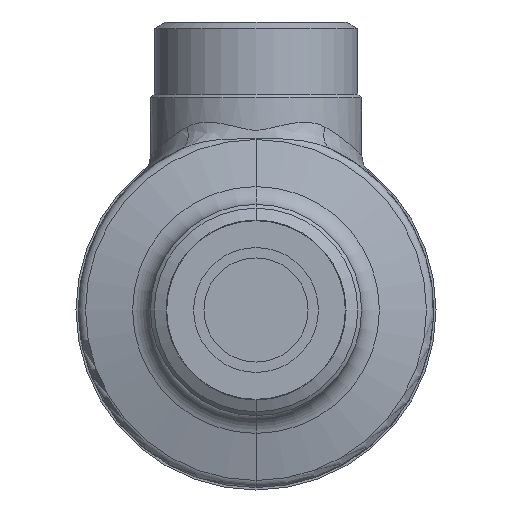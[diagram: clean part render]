
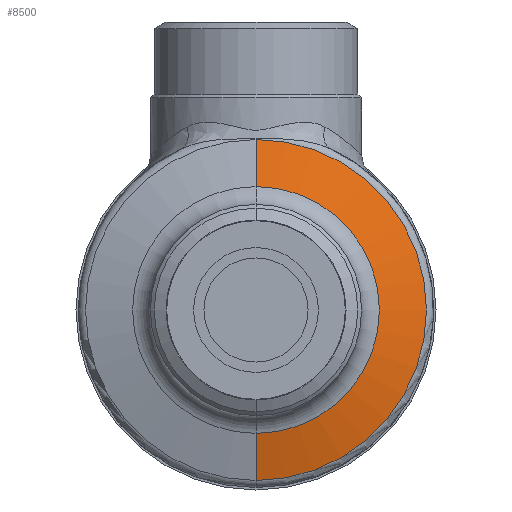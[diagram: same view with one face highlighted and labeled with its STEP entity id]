
A CAD part, front view. The second image highlights one B-rep face of the part: STEP entity #8500.
In plain terms, the highlighted conical face has half-angle 75 degrees and reference radius 37 mm.
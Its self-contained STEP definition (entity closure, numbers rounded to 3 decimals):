
#2679 = EDGE_CURVE ( 'NONE', #6028, #3481, #6401, .T. ) ;
#2841 = ORIENTED_EDGE ( 'NONE', *, *, #2679, .F. ) ;
#3481 = VERTEX_POINT ( 'NONE', #9791 ) ;
#3701 = EDGE_CURVE ( 'NONE', #13688, #3481, #9969, .T. ) ;
#6028 = VERTEX_POINT ( 'NONE', #12836 ) ;
#6401 = LINE ( 'NONE', #6404, #6405 ) ;
#6404 = CARTESIAN_POINT ( 'NONE',  ( 0., -63.981, 37. ) ) ;
#6405 = VECTOR ( 'NONE', #6406, 1000. ) ;
#6406 = DIRECTION ( 'NONE',  ( 0., 0.259, 0.966 ) ) ;
#6672 = CIRCLE ( 'NONE', #6673, 25.706 ) ;
#6673 = AXIS2_PLACEMENT_3D ( 'NONE', #6674, #6675, #6676 ) ;
#6674 = CARTESIAN_POINT ( 'NONE',  ( 0., -67.007, 0. ) ) ;
#6675 = DIRECTION ( 'NONE',  ( 0., 1., 0. ) ) ;
#6676 = DIRECTION ( 'NONE',  ( 0., 0., -1. ) ) ;
#7435 = EDGE_CURVE ( 'NONE', #6028, #9717, #6672, .T. ) ;
#7785 = ORIENTED_EDGE ( 'NONE', *, *, #7435, .T. ) ;
#8274 = EDGE_LOOP ( 'NONE', ( #7785, #14243, #13190, #2841 ) ) ;
#8500 = ADVANCED_FACE ( 'NONE', ( #10317 ), #10318, .T. ) ;
#9529 = CARTESIAN_POINT ( 'NONE',  ( 0., -64.378, -35.518 ) ) ;
#9717 = VERTEX_POINT ( 'NONE', #12185 ) ;
#9733 = LINE ( 'NONE', #9734, #9737 ) ;
#9734 = CARTESIAN_POINT ( 'NONE',  ( 0., -63.981, -37. ) ) ;
#9737 = VECTOR ( 'NONE', #9738, 1000. ) ;
#9738 = DIRECTION ( 'NONE',  ( 0., 0.259, -0.966 ) ) ;
#9791 = CARTESIAN_POINT ( 'NONE',  ( 0., -64.378, 35.518 ) ) ;
#9969 = CIRCLE ( 'NONE', #9970, 35.518 ) ;
#9970 = AXIS2_PLACEMENT_3D ( 'NONE', #9971, #9972, #9973 ) ;
#9971 = CARTESIAN_POINT ( 'NONE',  ( 0., -64.378, 0. ) ) ;
#9972 = DIRECTION ( 'NONE',  ( 0., -1., 0. ) ) ;
#9973 = DIRECTION ( 'NONE',  ( 0., 0., -1. ) ) ;
#10317 = FACE_OUTER_BOUND ( 'NONE', #8274, .T. ) ;
#10318 = CONICAL_SURFACE ( 'NONE', #10319, 37., 1.309 ) ;
#10319 = AXIS2_PLACEMENT_3D ( 'NONE', #10320, #10321, #10327 ) ;
#10320 = CARTESIAN_POINT ( 'NONE',  ( 0., -63.981, 0. ) ) ;
#10321 = DIRECTION ( 'NONE',  ( 0., 1., 0. ) ) ;
#10327 = DIRECTION ( 'NONE',  ( 0., 0., 1. ) ) ;
#12185 = CARTESIAN_POINT ( 'NONE',  ( 0., -67.007, -25.706 ) ) ;
#12836 = CARTESIAN_POINT ( 'NONE',  ( 0., -67.007, 25.706 ) ) ;
#13190 = ORIENTED_EDGE ( 'NONE', *, *, #3701, .T. ) ;
#13688 = VERTEX_POINT ( 'NONE', #9529 ) ;
#13897 = EDGE_CURVE ( 'NONE', #9717, #13688, #9733, .T. ) ;
#14243 = ORIENTED_EDGE ( 'NONE', *, *, #13897, .T. ) ;
